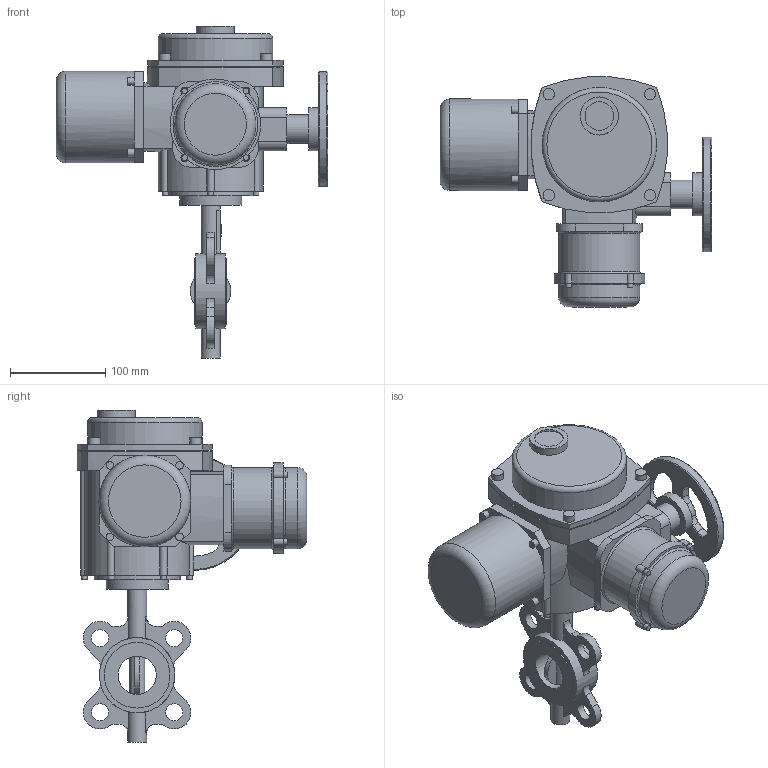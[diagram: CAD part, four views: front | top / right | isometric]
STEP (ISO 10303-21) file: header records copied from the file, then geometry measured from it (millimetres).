
FILE_DESCRIPTION(('STEP AP203'), '1');
FILE_NAME('青蜮铕 017W.YS_DN40_QT.Z 10', '', ('UNSPECIFIED'), ('UNSPECIFIED'), 'ASCON STEP Converter 1.6', 'ASCON Math Kernel', '');
FILE_SCHEMA(('CONFIG_CONTROL_DESIGN'));
Length unit declared in the file: millimetre
Bounding box: 285 x 240.97 x 348 mm (x, y, z)
Volume: 3761008.1 mm3; surface area: 310161.3 mm2
Topology: 1 solids, 1 shells, 343 faces, 834 edges, 526 vertices
Faces by surface type: cylinder 156, plane 135, torus 40, cone 12
Full cylindrical faces by diameter (mm): 4.917 x4, 6 x10, 6.647 x4, 8 x8, 12 x4, 12.386 x1, 12.6 x1, 18 x4, 20 x2, 30 x2, 35 x1, 40 x2, 45 x1, 55 x1, 65 x1, 68.9 x2, 78.9 x1, 85 x2, 90 x1, 96 x1, 120 x2
Entity records: 15034 total; most frequent: CARTESIAN_POINT 4267, DIRECTION 1794, ORIENTED_EDGE 1498, AXIS2_PLACEMENT_3D 761, EDGE_CURVE 749, VERTEX_POINT 517, EDGE_LOOP 479, CIRCLE 417
